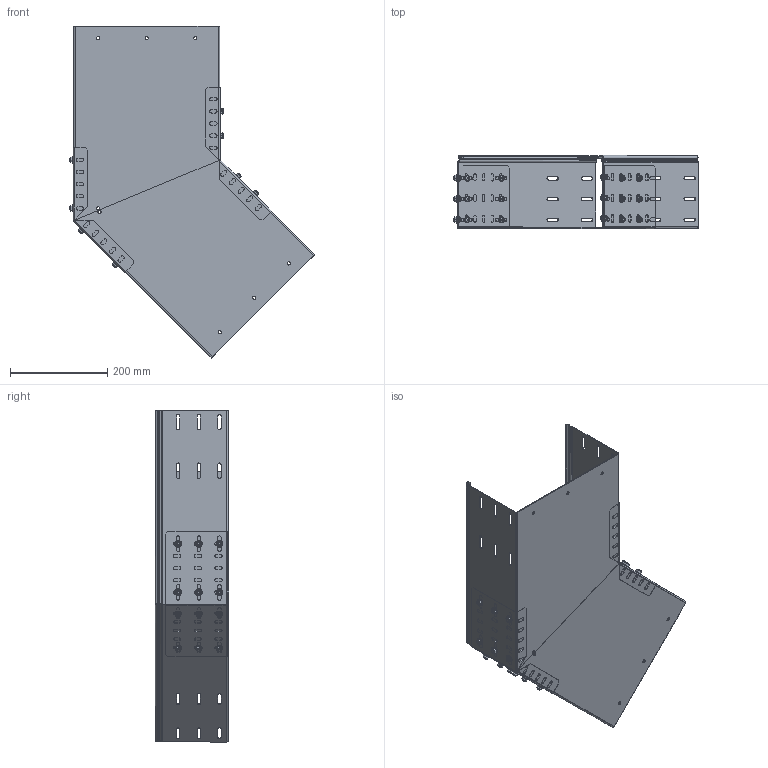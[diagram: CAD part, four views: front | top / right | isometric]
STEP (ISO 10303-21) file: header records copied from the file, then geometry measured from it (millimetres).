
FILE_DESCRIPTION (( 'STEP AP214' ), '1' );
FILE_NAME ('ﾑﾋﾓﾈ+ﾓﾋ(ﾍ)_150.STEP', '2016-10-06T21:08:48', ( '' ), ( '' ), 'SwSTEP 2.0', 'SolidWorks 2016', '' );
FILE_SCHEMA (( 'AUTOMOTIVE_DESIGN' ));
Length unit declared in the file: millimetre
Products named in the file (7): ﾑﾋﾓﾈ+ﾓﾋ(ﾍ)_150; ÓË(Í)-300õÍõ550_®¡à¥§2; 084015-084030 捀蚧 蚎_150 (45╲亥); 084015-084030 ÑËÓÈ ÓË_150 (45 ¢­ãâà); ÓË(Í)-300õÍõ550_®¡à¥§2-¤à; pan head cross recess screw_din_ISO 7045 - M6 x 10 - Z --- 10N; hex flange nut_din_Hexagon Flange Nut DIN 6923 - M6 - N
Assembly tree (52 placements, depth 2):
  ﾑﾋﾓﾈ+ﾓﾋ(ﾍ)_150
    ÓË(Í)-300õÍõ550_®¡à¥§2
    084015-084030 捀蚧 蚎_150 (45╲亥)
    084015-084030 ÑËÓÈ ÓË_150 (45 ¢­ãâà)
    ÓË(Í)-300õÍõ550_®¡à¥§2-¤à
    pan head cross recess screw_din_ISO 7045 - M6 x 10 - Z --- 10N  x24
    hex flange nut_din_Hexagon Flange Nut DIN 6923 - M6 - N  x24
Bounding box: 503.47 x 151 x 682.84 mm (x, y, z)
Volume: 726108.9 mm3; surface area: 1030715 mm2
Topology: 52 solids, 52 shells, 2363 faces, 5893 edges, 3598 vertices
Faces by surface type: plane 1010, cylinder 573, cone 432, bspline 156, torus 144, sphere 48
Entity records: 28759 total; most frequent: CARTESIAN_POINT 5704, DIRECTION 4753, ORIENTED_EDGE 4698, EDGE_CURVE 2349, AXIS2_PLACEMENT_3D 1650, VERTEX_POINT 1505, VECTOR 1453, LINE 1453
